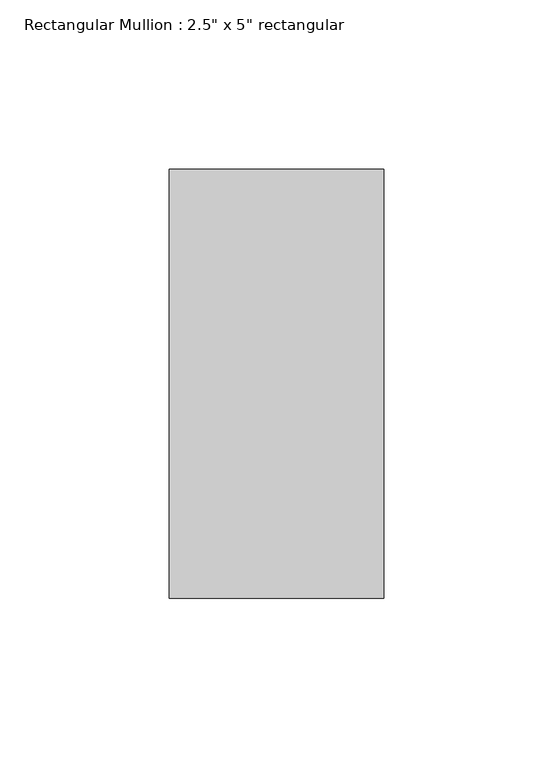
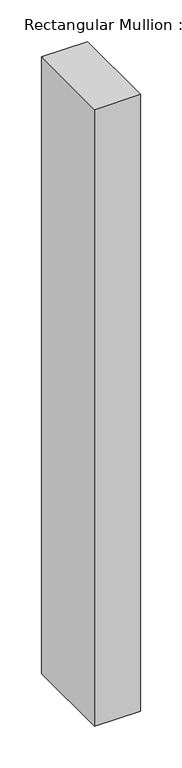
"""IFC4 building model written with IfcOpenShell, lengths in millimetres: member geometry."""

from ifc_helpers import new_model, si_unit, frame, origin, place, context, project, spatial, polyline, outline, extrude, source, transform, mapped, element, save


def member_b7368e82(model_context):
    return source(origin(), model_context, "Body", "SweptSolid", [
        extrude(outline(polyline([(0.0, 63.5), (0.0, -63.5), (-63.5, -63.5), (-63.5, 63.5), (0.0, 63.5)])), frame((0.0, 0.0, -901.7), z_axis=(0.0, 0.0, 1.0), x_axis=(1.0, 0.0, 0.0)), (0.0, 0.0, 1.0), 901.7),
    ])


if __name__ == "__main__":
    model = new_model("IFC4")
    model_context = context("Model", 3, world=origin())
    ifc_project = project(units=[si_unit("LENGTHUNIT", "METRE", prefix="MILLI")], contexts=[model_context])
    site = spatial("IfcSite", under=ifc_project)
    building = spatial("IfcBuilding", under=site)
    placement = place(None, origin())
    member_shape = member_b7368e82(model_context)
    element("IfcMember", 1, ObjectType="Rectangular Mullion : 2.5\" x 5\" rectangular", at=placement, inside=building, context=model_context, shape_type="MappedRepresentation", body=[
        mapped(member_shape, transform((0.0, 0.0, 0.0), x_axis=(1.0, 0.0, 0.0), y_axis=(0.0, 1.0, 0.0), z_axis=(0.0, 0.0, 1.0))),
    ])
    save(model, "model.ifc")
